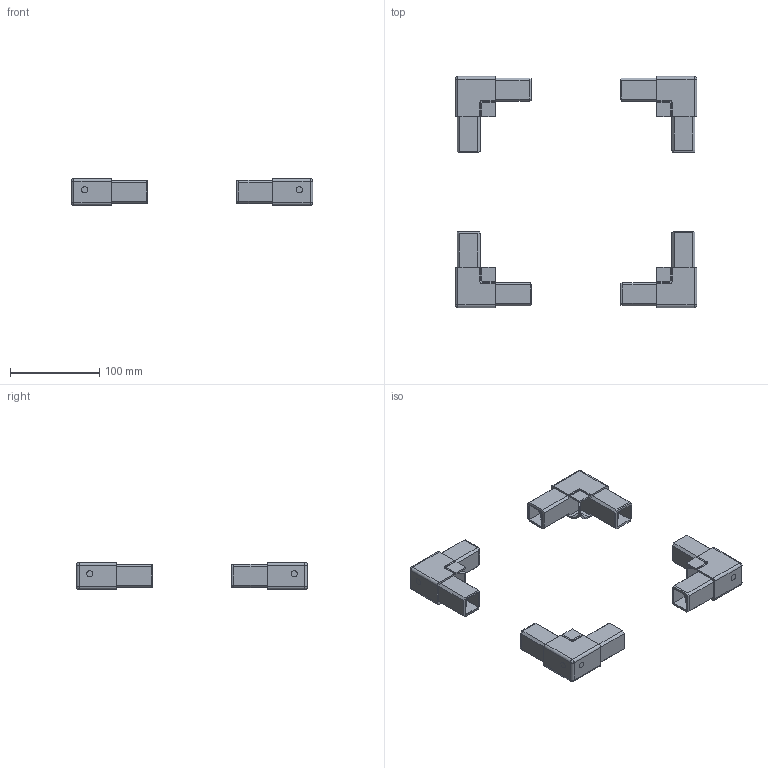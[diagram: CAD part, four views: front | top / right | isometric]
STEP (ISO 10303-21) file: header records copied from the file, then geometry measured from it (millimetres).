
FILE_DESCRIPTION (( 'STEP AP214' ), '1' );
FILE_NAME ('L15842 ENS.step', '2024-12-03T16:22:10', ( '' ), ( '' ), 'SwSTEP 2.0', 'SolidWorks 2023', '' );
FILE_SCHEMA (( 'AUTOMOTIVE_DESIGN' ));
Length unit declared in the file: millimetre
Products named in the file (2): L15842 ENS; L15842
Assembly tree (4 placements, depth 2):
  L15842 ENS
    L15842  x4
Bounding box: 270.79 x 259.15 x 30 mm (x, y, z)
Volume: 261065.2 mm3; surface area: 149130.5 mm2
Topology: 4 solids, 4 shells, 480 faces, 1352 edges, 856 vertices
Faces by surface type: plane 348, cylinder 116, torus 8, sphere 8
Full cylindrical faces by diameter (mm): 7 x16
Entity records: 3876 total; most frequent: CARTESIAN_POINT 765, ORIENTED_EDGE 648, DIRECTION 617, EDGE_CURVE 324, LINE 257, VECTOR 257, VERTEX_POINT 208, AXIS2_PLACEMENT_3D 180
